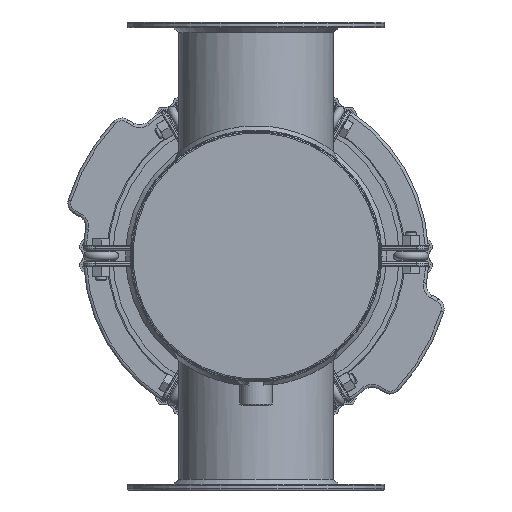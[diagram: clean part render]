
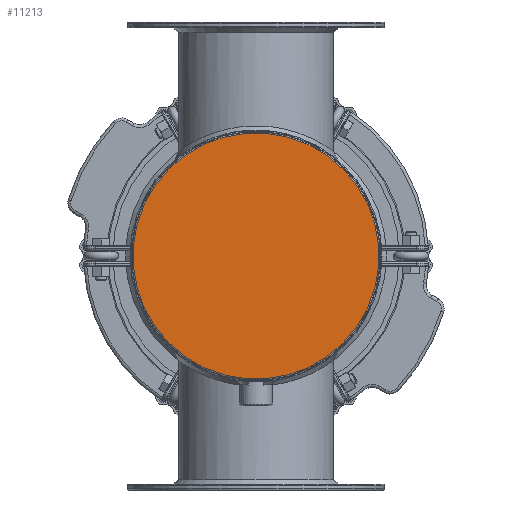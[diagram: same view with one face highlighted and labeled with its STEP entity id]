
A CAD part, front view. The second image highlights one B-rep face of the part: STEP entity #11213.
In plain terms, the highlighted planar face has unit normal (0, -1, 0).
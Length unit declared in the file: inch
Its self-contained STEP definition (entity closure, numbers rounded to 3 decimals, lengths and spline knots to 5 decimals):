
#1119=CIRCLE('',#12052,5.2625);
#2389=FACE_OUTER_BOUND('',#3167,.T.);
#3167=EDGE_LOOP('',(#8233));
#5356=VERTEX_POINT('',#20349);
#6418=EDGE_CURVE('',#5356,#5356,#1119,.T.);
#8233=ORIENTED_EDGE('',*,*,#6418,.F.);
#10939=PLANE('',#12055);
#11213=ADVANCED_FACE('',(#2389),#10939,.F.);
#12052=AXIS2_PLACEMENT_3D('',#20350,#13978,#13979);
#12055=AXIS2_PLACEMENT_3D('',#20354,#13984,#13985);
#13978=DIRECTION('center_axis',(0.,1.,0.));
#13979=DIRECTION('ref_axis',(1.,0.,0.));
#13984=DIRECTION('center_axis',(0.,1.,0.));
#13985=DIRECTION('ref_axis',(0.,0.,1.));
#20349=CARTESIAN_POINT('',(-5.2625,0.,0.));
#20350=CARTESIAN_POINT('Origin',(0.,0.,0.));
#20354=CARTESIAN_POINT('Origin',(0.,0.,0.));
